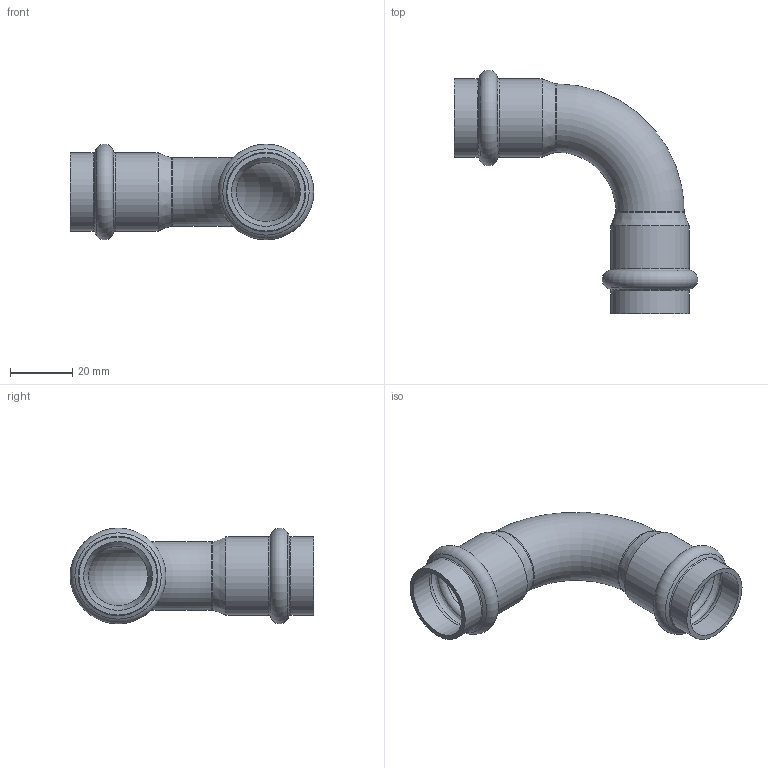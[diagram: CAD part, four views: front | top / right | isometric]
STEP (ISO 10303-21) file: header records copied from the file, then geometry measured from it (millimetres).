
FILE_DESCRIPTION((''),'2;1');
FILE_NAME('G:\Technics\CAD\Bauteile\022\69002A22(1).stp','2008-02-18T10:51:31',('herberg'),(''),'Autodesk Inventor 2008','Autodesk Inventor 2008','');
FILE_SCHEMA(('AUTOMOTIVE_DESIGN { 1 0 10303 214 1 1 1 1 }'));
Length unit declared in the file: millimetre
Products named in the file (1): 69002A22(1)
Bounding box: 78.39 x 78.39 x 30.79 mm (x, y, z)
Volume: 12752.8 mm3; surface area: 17226.9 mm2
Topology: 1 solids, 1 shells, 36 faces, 72 edges, 38 vertices
Faces by surface type: cylinder 12, cone 8, torus 8, bspline 6, plane 2
Full cylindrical faces by diameter (mm): 19 x2, 22 x2, 22.15 x4, 25.15 x4
Entity records: 1066 total; most frequent: CARTESIAN_POINT 445, DIRECTION 134, ORIENTED_EDGE 72, EDGE_LOOP 72, AXIS2_PLACEMENT_3D 67, VERTEX_POINT 36, CIRCLE 36, EDGE_CURVE 36
